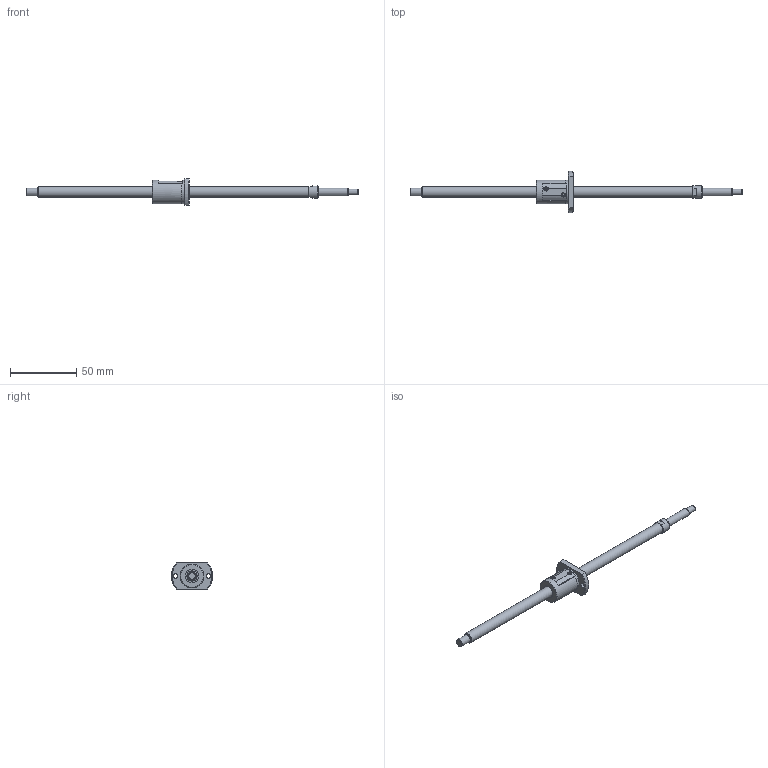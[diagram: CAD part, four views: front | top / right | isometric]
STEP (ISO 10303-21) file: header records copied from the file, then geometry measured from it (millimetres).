
FILE_DESCRIPTION(/* description */ ('STEP AP214'),/* implementation_level */ '2;1');
FILE_NAME(/* name */ 'SG0805-200R250C5C0X(86)',/* time_stamp */ '2026-07-21T16:52:08+02:00',/* author */ ('License CC BY-ND 4.0'),/* organization */ ('CADENAS'),/* preprocessor_version */ 'ST-DEVELOPER v20',/* originating_system */ 'PARTsolutions',/* authorisation */ ' ');
FILE_SCHEMA (('AUTOMOTIVE_DESIGN {1 0 10303 214 3 1 1}'));
Length unit declared in the file: millimetre
Products named in the file (3): SG0805-200R250C5C0X(86); SG0805-200R250C5C_shaft; SG0805 C5_nut
Assembly tree (2 placements, depth 2):
  SG0805-200R250C5C0X(86)
    SG0805-200R250C5C_shaft
    SG0805 C5_nut
Bounding box: 250 x 30.91 x 20 mm (x, y, z)
Volume: 18422.3 mm3; surface area: 9680.1 mm2
Topology: 2 solids, 2 shells, 75 faces, 182 edges, 119 vertices
Faces by surface type: plane 36, cylinder 24, cone 14, torus 1
Full cylindrical faces by diameter (mm): 3.4 x2, 4.5 x1, 6 x2, 8 x2, 9.5 x1, 10 x2, 17.7 x1, 18 x1
Entity records: 2117 total; most frequent: CARTESIAN_POINT 396, DIRECTION 358, ORIENTED_EDGE 298, EDGE_CURVE 149, AXIS2_PLACEMENT_3D 149, EDGE_LOOP 112, FACE_BOUND 112, VERTEX_POINT 109
